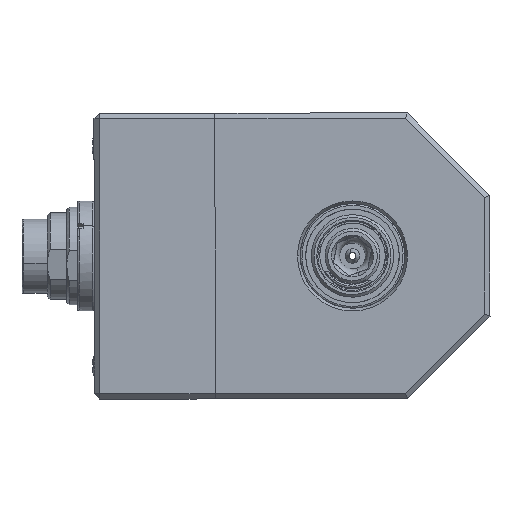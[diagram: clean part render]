
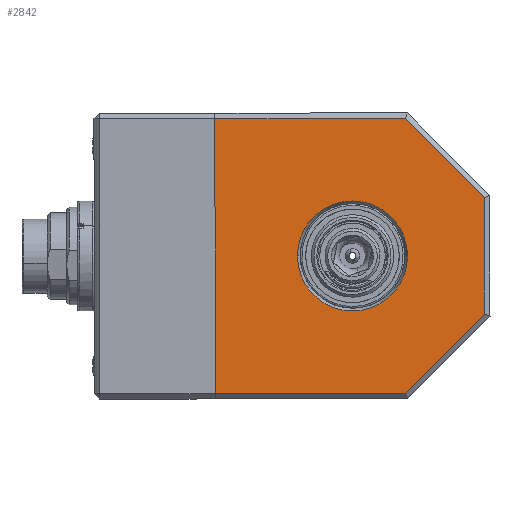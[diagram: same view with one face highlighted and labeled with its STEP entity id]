
A CAD part, left-side view. The second image highlights one B-rep face of the part: STEP entity #2842.
In plain terms, the highlighted planar face has unit normal (-1, 0, 0).
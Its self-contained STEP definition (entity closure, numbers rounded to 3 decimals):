
#2408 = EDGE_CURVE ( 'NONE', #2542, #2549, #9821, .T. ) ;
#2542 = VERTEX_POINT ( 'NONE', #10194 ) ;
#2549 = VERTEX_POINT ( 'NONE', #10169 ) ;
#2658 = EDGE_CURVE ( 'NONE', #2858, #2749, #11545, .T. ) ;
#2722 = EDGE_LOOP ( 'NONE', ( #2760, #2761 ) ) ;
#2729 = EDGE_LOOP ( 'NONE', ( #2731, #2730, #2733, #2735, #2732, #2737 ) ) ;
#2730 = ORIENTED_EDGE ( 'NONE', *, *, #2754, .T. ) ;
#2731 = ORIENTED_EDGE ( 'NONE', *, *, #2844, .F. ) ;
#2732 = ORIENTED_EDGE ( 'NONE', *, *, #2658, .T. ) ;
#2733 = ORIENTED_EDGE ( 'NONE', *, *, #2875, .T. ) ;
#2735 = ORIENTED_EDGE ( 'NONE', *, *, #2859, .T. ) ;
#2737 = ORIENTED_EDGE ( 'NONE', *, *, #2748, .T. ) ;
#2743 = VERTEX_POINT ( 'NONE', #10421 ) ;
#2748 = EDGE_CURVE ( 'NONE', #2749, #2848, #10412, .T. ) ;
#2749 = VERTEX_POINT ( 'NONE', #10409 ) ;
#2754 = EDGE_CURVE ( 'NONE', #2756, #2878, #10404, .T. ) ;
#2756 = VERTEX_POINT ( 'NONE', #10392 ) ;
#2760 = ORIENTED_EDGE ( 'NONE', *, *, #2408, .T. ) ;
#2761 = ORIENTED_EDGE ( 'NONE', *, *, #2843, .T. ) ;
#2842 = ADVANCED_FACE ( 'NONE', ( #10536, #10614 ), #10610, .F. ) ;
#2843 = EDGE_CURVE ( 'NONE', #2549, #2542, #10556, .T. ) ;
#2844 = EDGE_CURVE ( 'NONE', #2756, #2848, #10760, .T. ) ;
#2848 = VERTEX_POINT ( 'NONE', #10684 ) ;
#2858 = VERTEX_POINT ( 'NONE', #10676 ) ;
#2859 = EDGE_CURVE ( 'NONE', #2743, #2858, #10581, .T. ) ;
#2875 = EDGE_CURVE ( 'NONE', #2878, #2743, #10569, .T. ) ;
#2878 = VERTEX_POINT ( 'NONE', #10621 ) ;
#9811 = DIRECTION ( 'NONE',  ( 0., -1., 0.001 ) ) ;
#9814 = CARTESIAN_POINT ( 'NONE',  ( -39.192, 0., 0. ) ) ;
#9817 = DIRECTION ( 'NONE',  ( 1., 0., 0. ) ) ;
#9821 = CIRCLE ( 'NONE', #9823, 10. ) ;
#9823 = AXIS2_PLACEMENT_3D ( 'NONE', #9814, #9817, #9811 ) ;
#10169 = CARTESIAN_POINT ( 'NONE',  ( -39.192, -10., 0.006 ) ) ;
#10194 = CARTESIAN_POINT ( 'NONE',  ( -39.192, 10., -0.006 ) ) ;
#10392 = CARTESIAN_POINT ( 'NONE',  ( -39.192, 24.986, -25.014 ) ) ;
#10393 = DIRECTION ( 'NONE',  ( 0., -1., 0.001 ) ) ;
#10394 = VECTOR ( 'NONE', #10393, 1000. ) ;
#10403 = CARTESIAN_POINT ( 'NONE',  ( -39.192, -10.014, -24.994 ) ) ;
#10404 = LINE ( 'NONE', #10403, #10394 ) ;
#10406 = VECTOR ( 'NONE', #10422, 1000. ) ;
#10409 = CARTESIAN_POINT ( 'NONE',  ( -39.192, -9.572, 25.005 ) ) ;
#10412 = LINE ( 'NONE', #10423, #10406 ) ;
#10421 = CARTESIAN_POINT ( 'NONE',  ( -39.192, -24.006, -10.572 ) ) ;
#10422 = DIRECTION ( 'NONE',  ( 0., 1., -0.001 ) ) ;
#10423 = CARTESIAN_POINT ( 'NONE',  ( -39.192, 25.014, 24.986 ) ) ;
#10536 = FACE_BOUND ( 'NONE', #2722, .T. ) ;
#10555 = DIRECTION ( 'NONE',  ( 1., 0., 0. ) ) ;
#10556 = CIRCLE ( 'NONE', #10757, 10. ) ;
#10567 = DIRECTION ( 'NONE',  ( 0., -0.707, 0.708 ) ) ;
#10568 = CARTESIAN_POINT ( 'NONE',  ( -39.192, -24.299, -10.279 ) ) ;
#10569 = LINE ( 'NONE', #10568, #10628 ) ;
#10578 = DIRECTION ( 'NONE',  ( 0., 0.001, 1. ) ) ;
#10579 = VECTOR ( 'NONE', #10578, 1000. ) ;
#10580 = CARTESIAN_POINT ( 'NONE',  ( -39.192, -23.994, 11.013 ) ) ;
#10581 = LINE ( 'NONE', #10580, #10579 ) ;
#10610 = PLANE ( 'NONE',  #10642 ) ;
#10614 = FACE_OUTER_BOUND ( 'NONE', #2729, .T. ) ;
#10615 = CARTESIAN_POINT ( 'NONE',  ( -39.192, 24.985, -26.014 ) ) ;
#10621 = CARTESIAN_POINT ( 'NONE',  ( -39.192, -9.6, -24.995 ) ) ;
#10628 = VECTOR ( 'NONE', #10567, 1000. ) ;
#10642 = AXIS2_PLACEMENT_3D ( 'NONE', #10615, #10555, #10761 ) ;
#10676 = CARTESIAN_POINT ( 'NONE',  ( -39.192, -23.994, 10.599 ) ) ;
#10684 = CARTESIAN_POINT ( 'NONE',  ( -39.192, 25.014, 24.986 ) ) ;
#10686 = VECTOR ( 'NONE', #10758, 1000. ) ;
#10754 = DIRECTION ( 'NONE',  ( 0., -1., 0.001 ) ) ;
#10755 = DIRECTION ( 'NONE',  ( 1., 0., 0. ) ) ;
#10756 = CARTESIAN_POINT ( 'NONE',  ( -39.192, 0., 0. ) ) ;
#10757 = AXIS2_PLACEMENT_3D ( 'NONE', #10756, #10755, #10754 ) ;
#10758 = DIRECTION ( 'NONE',  ( 0., 0.001, 1. ) ) ;
#10759 = CARTESIAN_POINT ( 'NONE',  ( -39.192, 24.985, -26.014 ) ) ;
#10760 = LINE ( 'NONE', #10759, #10686 ) ;
#10761 = DIRECTION ( 'NONE',  ( 0., -1., 0.001 ) ) ;
#11545 = LINE ( 'NONE', #11617, #11616 ) ;
#11615 = DIRECTION ( 'NONE',  ( 0., 0.708, 0.707 ) ) ;
#11616 = VECTOR ( 'NONE', #11615, 1000. ) ;
#11617 = CARTESIAN_POINT ( 'NONE',  ( -39.192, -9.279, 25.298 ) ) ;
